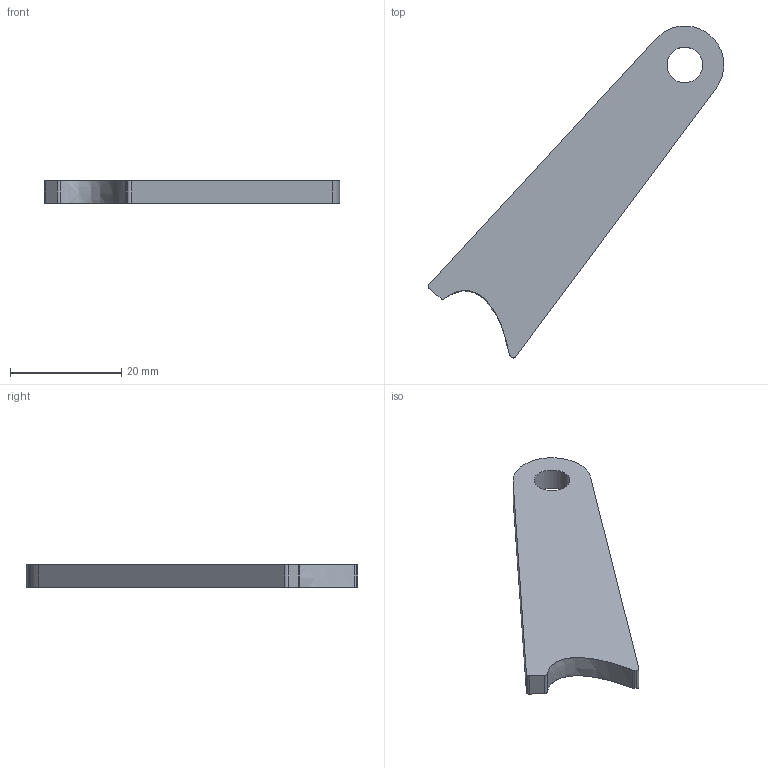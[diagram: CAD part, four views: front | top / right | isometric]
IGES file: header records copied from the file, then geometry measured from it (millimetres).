
Start section: START RECORD GO HERE.
Global section: file name: 20M_RU_RU.igs; native system: IBM CATIA IGES - CATIA Version 5 Release 19 ; preprocessor: CATIA Version 5 Release 19 ; author: alexb; organization: LAPTOP-PR6NE7IP; date: 20191216.215314; units: millimetre
Bounding box: 53.08 x 59.61 x 4 mm (x, y, z)
Surface area: 2799 mm2 (no closed solid volume)
Topology: 0 solids, 0 shells, 14 faces, 72 edges, 74 vertices
Faces by surface type: revolution 7, plane 6, extrusion 1
